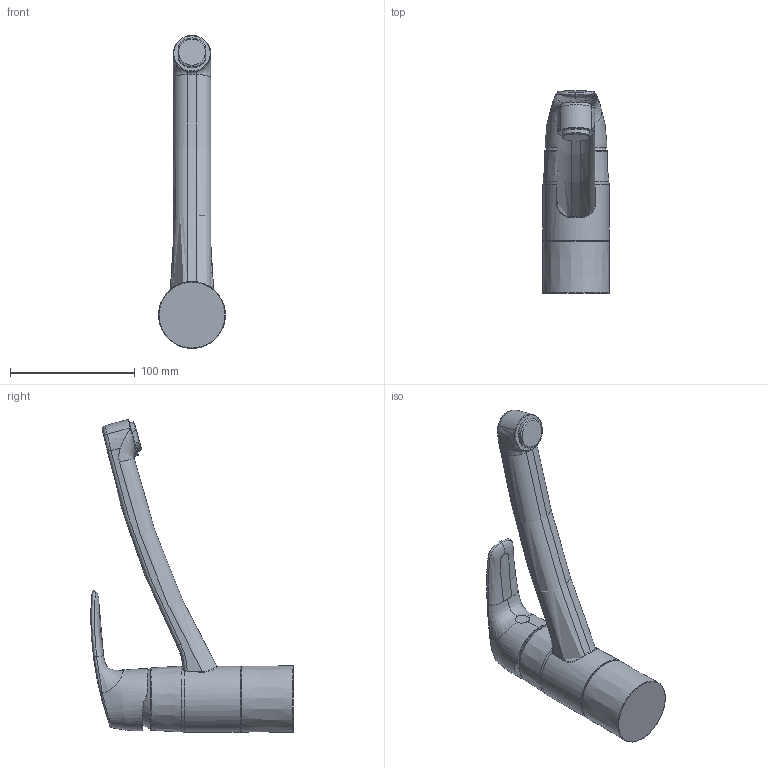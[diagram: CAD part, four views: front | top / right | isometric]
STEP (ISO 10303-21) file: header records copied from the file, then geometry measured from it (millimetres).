
FILE_DESCRIPTION (( 'STEP AP203' ), '1' );
FILE_NAME ('1030(2017)+1030F(2017)+1030F-105(2017)+45381183.STEP', '2017-03-09T05:40:52', ( '' ), ( '' ), 'SwSTEP 2.0', 'SolidWorks 2016', '' );
FILE_SCHEMA (( 'CONFIG_CONTROL_DESIGN' ));
Length unit declared in the file: millimetre
Products named in the file (1): 1030(2017)+1030F(2017)+1030F-105(2017)+45381183
Bounding box: 53.69 x 162.69 x 251.21 mm (x, y, z)
Volume: 449782.6 mm3; surface area: 51936.7 mm2
Topology: 1 solids, 1 shells, 83 faces, 208 edges, 129 vertices
Faces by surface type: bspline 45, torus 14, cylinder 11, plane 10, cone 3
Full cylindrical faces by diameter (mm): 52.207 x1, 53 x1
Entity records: 12530 total; most frequent: CARTESIAN_POINT 10980, ORIENTED_EDGE 374, EDGE_CURVE 187, DIRECTION 174, B_SPLINE_CURVE_WITH_KNOTS 127, VERTEX_POINT 120, EDGE_LOOP 97, FACE_OUTER_BOUND 92
